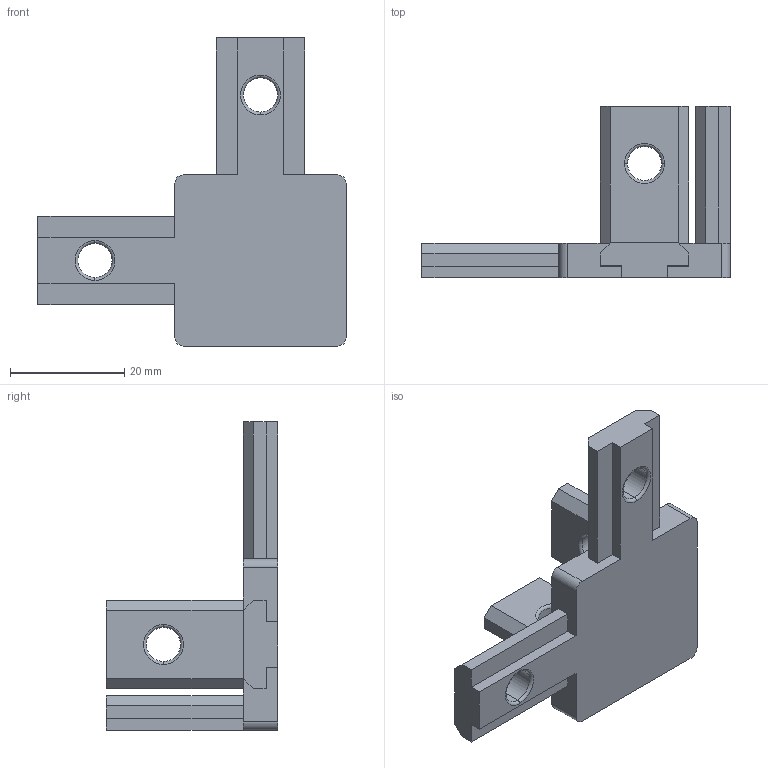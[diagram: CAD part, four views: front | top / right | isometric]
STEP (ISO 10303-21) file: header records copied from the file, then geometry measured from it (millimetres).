
FILE_DESCRIPTION (( 'STEP AP203' ), '1' );
FILE_NAME ('2066.STEP', '2016-01-22T08:36:45', ( '' ), ( '' ), 'SwSTEP 2.0', 'SolidWorks 2014', '' );
FILE_SCHEMA (( 'CONFIG_CONTROL_DESIGN' ));
Length unit declared in the file: millimetre
Products named in the file (1): 2066
Bounding box: 54 x 30 x 54 mm (x, y, z)
Volume: 11895.4 mm3; surface area: 6626.6 mm2
Topology: 1 solids, 1 shells, 74 faces, 200 edges, 128 vertices
Faces by surface type: plane 46, torus 16, cylinder 12
Entity records: 2405 total; most frequent: DIRECTION 406, CARTESIAN_POINT 403, ORIENTED_EDGE 400, EDGE_CURVE 200, VECTOR 144, LINE 144, AXIS2_PLACEMENT_3D 131, VERTEX_POINT 128
